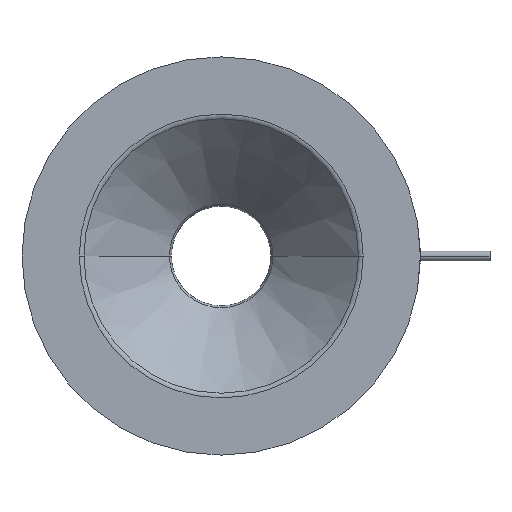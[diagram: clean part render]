
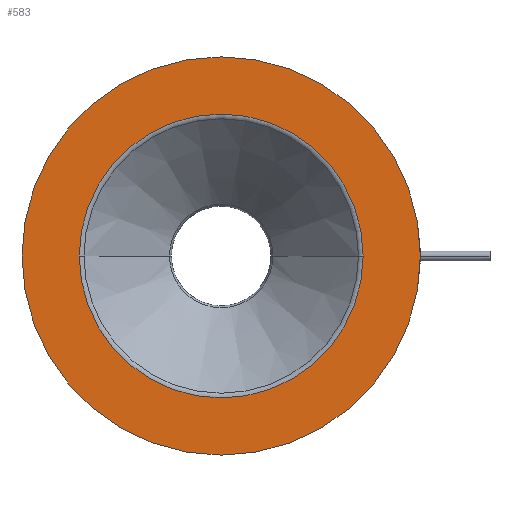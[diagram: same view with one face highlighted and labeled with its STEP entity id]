
A CAD part, front view. The second image highlights one B-rep face of the part: STEP entity #583.
In plain terms, the highlighted planar face has unit normal (0, -1, 0).
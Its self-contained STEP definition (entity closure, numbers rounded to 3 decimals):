
#85=CARTESIAN_POINT('',(107.792,213.002,0.));
#86=DIRECTION('',(0.,1.,0.));
#87=DIRECTION('',(-1.,0.,0.));
#88=AXIS2_PLACEMENT_3D('',#85,#86,#87);
#90=CARTESIAN_POINT('',(107.792,213.002,0.));
#91=DIRECTION('',(0.,1.,0.));
#92=DIRECTION('',(1.,0.,0.));
#93=AXIS2_PLACEMENT_3D('',#90,#91,#92);
#95=CARTESIAN_POINT('',(107.792,213.002,0.));
#96=DIRECTION('',(0.,-1.,0.));
#97=DIRECTION('',(-1.,0.,0.));
#98=AXIS2_PLACEMENT_3D('',#95,#96,#97);
#100=CARTESIAN_POINT('',(107.792,213.002,0.));
#101=DIRECTION('',(0.,-1.,0.));
#102=DIRECTION('',(1.,0.,0.));
#103=AXIS2_PLACEMENT_3D('',#100,#101,#102);
#363=CARTESIAN_POINT('',(150.555,213.002,0.));
#364=VERTEX_POINT('',#363);
#365=CARTESIAN_POINT('',(65.029,213.002,0.));
#366=VERTEX_POINT('',#365);
#367=CARTESIAN_POINT('',(47.792,213.002,0.));
#368=CARTESIAN_POINT('',(167.792,213.002,0.));
#369=VERTEX_POINT('',#367);
#370=VERTEX_POINT('',#368);
#568=CARTESIAN_POINT('',(107.792,213.002,0.));
#569=DIRECTION('',(0.,-1.,0.));
#570=DIRECTION('',(-1.,0.,0.));
#571=AXIS2_PLACEMENT_3D('',#568,#569,#570);
#572=PLANE('',#571);
#574=ORIENTED_EDGE('',*,*,#573,.T.);
#576=ORIENTED_EDGE('',*,*,#575,.T.);
#577=EDGE_LOOP('',(#574,#576));
#578=FACE_OUTER_BOUND('',#577,.F.);
#579=ORIENTED_EDGE('',*,*,#561,.T.);
#580=ORIENTED_EDGE('',*,*,#550,.T.);
#581=EDGE_LOOP('',(#579,#580));
#582=FACE_BOUND('',#581,.F.);
#89=CIRCLE('',#88,60.);
#94=CIRCLE('',#93,60.);
#99=CIRCLE('',#98,42.763);
#104=CIRCLE('',#103,42.763);
#550=EDGE_CURVE('',#364,#366,#104,.T.);
#561=EDGE_CURVE('',#366,#364,#99,.T.);
#573=EDGE_CURVE('',#369,#370,#89,.T.);
#575=EDGE_CURVE('',#370,#369,#94,.T.);
#583=ADVANCED_FACE('',(#578,#582),#572,.T.);
